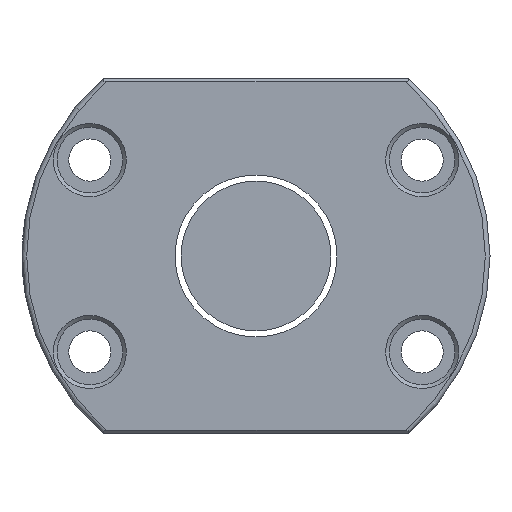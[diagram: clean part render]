
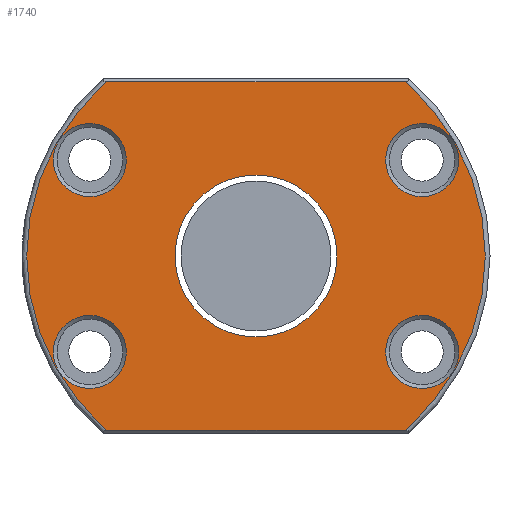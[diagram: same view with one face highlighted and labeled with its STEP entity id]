
A CAD part, left-side view. The second image highlights one B-rep face of the part: STEP entity #1740.
In plain terms, the highlighted planar face has unit normal (-1, 0, 0).
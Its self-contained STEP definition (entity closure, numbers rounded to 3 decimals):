
#4 = DIRECTION ( 'NONE',  ( -1., 0., 0. ) ) ;
#9 = VERTEX_POINT ( 'NONE', #578 ) ;
#28 = CARTESIAN_POINT ( 'NONE',  ( -75., 35.507, 28.3 ) ) ;
#43 = EDGE_CURVE ( 'NONE', #2459, #2459, #2368, .T. ) ;
#162 = VECTOR ( 'NONE', #628, 1000. ) ;
#241 = FACE_BOUND ( 'NONE', #2199, .T. ) ;
#327 = CIRCLE ( 'NONE', #742, 7.8 ) ;
#328 = VERTEX_POINT ( 'NONE', #2019 ) ;
#424 = CARTESIAN_POINT ( 'NONE',  ( -75., -31.893, -37.2 ) ) ;
#471 = CARTESIAN_POINT ( 'NONE',  ( -75., 0., 0. ) ) ;
#509 = EDGE_CURVE ( 'NONE', #2680, #2680, #327, .T. ) ;
#513 = ORIENTED_EDGE ( 'NONE', *, *, #509, .T. ) ;
#578 = CARTESIAN_POINT ( 'NONE',  ( -75., 31.893, 37.2 ) ) ;
#596 = EDGE_CURVE ( 'NONE', #9, #2177, #2217, .T. ) ;
#600 = VERTEX_POINT ( 'NONE', #1100 ) ;
#628 = DIRECTION ( 'NONE',  ( 0., 1., 0. ) ) ;
#684 = CIRCLE ( 'NONE', #1351, 17.3 ) ;
#704 = ORIENTED_EDGE ( 'NONE', *, *, #2895, .T. ) ;
#742 = AXIS2_PLACEMENT_3D ( 'NONE', #1045, #2011, #1573 ) ;
#776 = AXIS2_PLACEMENT_3D ( 'NONE', #857, #2300, #1858 ) ;
#793 = EDGE_LOOP ( 'NONE', ( #1555 ) ) ;
#857 = CARTESIAN_POINT ( 'NONE',  ( -75., 35.507, 20.5 ) ) ;
#861 = ORIENTED_EDGE ( 'NONE', *, *, #2010, .T. ) ;
#885 = AXIS2_PLACEMENT_3D ( 'NONE', #2123, #2059, #2077 ) ;
#899 = CARTESIAN_POINT ( 'NONE',  ( -75., -32.496, -37.2 ) ) ;
#906 = AXIS2_PLACEMENT_3D ( 'NONE', #2637, #1478, #2179 ) ;
#925 = FACE_OUTER_BOUND ( 'NONE', #2983, .T. ) ;
#984 = CARTESIAN_POINT ( 'NONE',  ( -75., 50., 0. ) ) ;
#1045 = CARTESIAN_POINT ( 'NONE',  ( -75., -35.507, -20.5 ) ) ;
#1061 = DIRECTION ( 'NONE',  ( -1., 0., 0. ) ) ;
#1100 = CARTESIAN_POINT ( 'NONE',  ( -75., 0., -17.3 ) ) ;
#1105 = EDGE_CURVE ( 'NONE', #2715, #2715, #2645, .T. ) ;
#1162 = EDGE_CURVE ( 'NONE', #328, #328, #1643, .T. ) ;
#1169 = EDGE_LOOP ( 'NONE', ( #1380 ) ) ;
#1197 = EDGE_CURVE ( 'NONE', #2549, #9, #2817, .T. ) ;
#1221 = FACE_BOUND ( 'NONE', #3124, .T. ) ;
#1351 = AXIS2_PLACEMENT_3D ( 'NONE', #471, #1663, #2413 ) ;
#1380 = ORIENTED_EDGE ( 'NONE', *, *, #1162, .T. ) ;
#1478 = DIRECTION ( 'NONE',  ( 1., 0., 0. ) ) ;
#1510 = DIRECTION ( 'NONE',  ( 0., 0., 1. ) ) ;
#1524 = CARTESIAN_POINT ( 'NONE',  ( -75., 0., 0. ) ) ;
#1547 = CARTESIAN_POINT ( 'NONE',  ( -75., -35.507, -12.7 ) ) ;
#1554 = CARTESIAN_POINT ( 'NONE',  ( -75., 0., 0. ) ) ;
#1555 = ORIENTED_EDGE ( 'NONE', *, *, #2530, .T. ) ;
#1573 = DIRECTION ( 'NONE',  ( 0., 0., 1. ) ) ;
#1634 = ORIENTED_EDGE ( 'NONE', *, *, #1197, .T. ) ;
#1643 = CIRCLE ( 'NONE', #885, 7.8 ) ;
#1663 = DIRECTION ( 'NONE',  ( 1., 0., 0. ) ) ;
#1740 = ADVANCED_FACE ( 'NONE', ( #925, #2420, #2187, #241, #1221, #2673 ), #1952, .T. ) ;
#1783 = CARTESIAN_POINT ( 'NONE',  ( -75., 35.507, -12.7 ) ) ;
#1847 = AXIS2_PLACEMENT_3D ( 'NONE', #984, #4, #2913 ) ;
#1858 = DIRECTION ( 'NONE',  ( 0., 0., 1. ) ) ;
#1952 = PLANE ( 'NONE',  #1847 ) ;
#1956 = VERTEX_POINT ( 'NONE', #424 ) ;
#2010 = EDGE_CURVE ( 'NONE', #1956, #2549, #2803, .T. ) ;
#2011 = DIRECTION ( 'NONE',  ( 1., 0., 0. ) ) ;
#2019 = CARTESIAN_POINT ( 'NONE',  ( -75., -35.507, 28.3 ) ) ;
#2028 = DIRECTION ( 'NONE',  ( 0., 0., 1. ) ) ;
#2059 = DIRECTION ( 'NONE',  ( 1., 0., 0. ) ) ;
#2065 = AXIS2_PLACEMENT_3D ( 'NONE', #1554, #1061, #2028 ) ;
#2077 = DIRECTION ( 'NONE',  ( 0., 0., 1. ) ) ;
#2123 = CARTESIAN_POINT ( 'NONE',  ( -75., -35.507, 20.5 ) ) ;
#2177 = VERTEX_POINT ( 'NONE', #2342 ) ;
#2179 = DIRECTION ( 'NONE',  ( 0., 0., 1. ) ) ;
#2187 = FACE_BOUND ( 'NONE', #1169, .T. ) ;
#2199 = EDGE_LOOP ( 'NONE', ( #2299 ) ) ;
#2217 = CIRCLE ( 'NONE', #2065, 49. ) ;
#2299 = ORIENTED_EDGE ( 'NONE', *, *, #1105, .T. ) ;
#2300 = DIRECTION ( 'NONE',  ( 1., 0., 0. ) ) ;
#2342 = CARTESIAN_POINT ( 'NONE',  ( -75., 31.893, -37.2 ) ) ;
#2368 = CIRCLE ( 'NONE', #906, 7.8 ) ;
#2413 = DIRECTION ( 'NONE',  ( 0., 0., -1. ) ) ;
#2420 = FACE_BOUND ( 'NONE', #2688, .T. ) ;
#2425 = CARTESIAN_POINT ( 'NONE',  ( -75., -31.893, 37.2 ) ) ;
#2459 = VERTEX_POINT ( 'NONE', #1783 ) ;
#2530 = EDGE_CURVE ( 'NONE', #600, #600, #684, .T. ) ;
#2549 = VERTEX_POINT ( 'NONE', #2425 ) ;
#2560 = VECTOR ( 'NONE', #2763, 1000. ) ;
#2609 = ORIENTED_EDGE ( 'NONE', *, *, #596, .T. ) ;
#2637 = CARTESIAN_POINT ( 'NONE',  ( -75., 35.507, -20.5 ) ) ;
#2645 = CIRCLE ( 'NONE', #776, 7.8 ) ;
#2673 = FACE_BOUND ( 'NONE', #793, .T. ) ;
#2680 = VERTEX_POINT ( 'NONE', #1547 ) ;
#2688 = EDGE_LOOP ( 'NONE', ( #513 ) ) ;
#2692 = DIRECTION ( 'NONE',  ( -1., 0., 0. ) ) ;
#2715 = VERTEX_POINT ( 'NONE', #28 ) ;
#2763 = DIRECTION ( 'NONE',  ( 0., -1., 0. ) ) ;
#2800 = CARTESIAN_POINT ( 'NONE',  ( -75., 32.496, 37.2 ) ) ;
#2803 = CIRCLE ( 'NONE', #3003, 49. ) ;
#2817 = LINE ( 'NONE', #2800, #162 ) ;
#2895 = EDGE_CURVE ( 'NONE', #2177, #1956, #3057, .T. ) ;
#2913 = DIRECTION ( 'NONE',  ( 0., 0., 1. ) ) ;
#2983 = EDGE_LOOP ( 'NONE', ( #704, #861, #1634, #2609 ) ) ;
#3003 = AXIS2_PLACEMENT_3D ( 'NONE', #1524, #2692, #1510 ) ;
#3057 = LINE ( 'NONE', #899, #2560 ) ;
#3069 = ORIENTED_EDGE ( 'NONE', *, *, #43, .T. ) ;
#3124 = EDGE_LOOP ( 'NONE', ( #3069 ) ) ;
